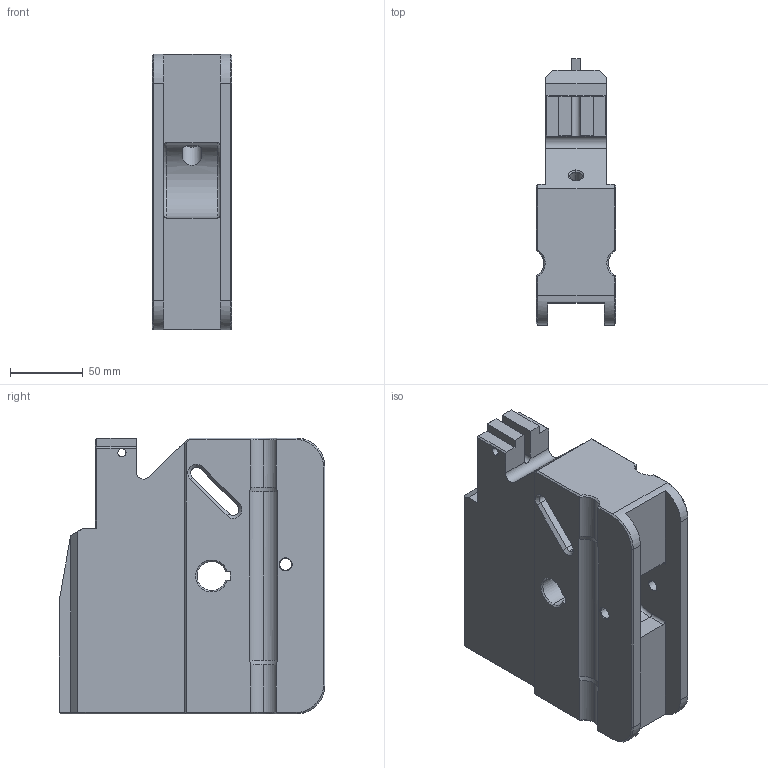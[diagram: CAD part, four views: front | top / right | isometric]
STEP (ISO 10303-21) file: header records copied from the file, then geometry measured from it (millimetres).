
FILE_DESCRIPTION (( 'STEP AP214' ), '1' );
FILE_NAME ('ÐÇ148.00.00.004 - Êîíóñ DF0062905.STEP', '2024-08-01T08:30:30', ( '' ), ( '' ), 'SwSTEP 2.0', 'SolidWorks 2021', '' );
FILE_SCHEMA (( 'AUTOMOTIVE_DESIGN' ));
Length unit declared in the file: millimetre
Products named in the file (1): ÐÇ148.00.00.004 - Êîíóñ DF0062905
Bounding box: 55 x 183.1 x 190 mm (x, y, z)
Volume: 1298080.8 mm3; surface area: 124439.5 mm2
Topology: 1 solids, 1 shells, 185 faces, 466 edges, 288 vertices
Faces by surface type: plane 99, cylinder 50, cone 30, bspline 4, torus 2
Entity records: 6240 total; most frequent: CARTESIAN_POINT 1751, ORIENTED_EDGE 932, DIRECTION 916, EDGE_CURVE 466, AXIS2_PLACEMENT_3D 311, LINE 294, VECTOR 294, VERTEX_POINT 288
